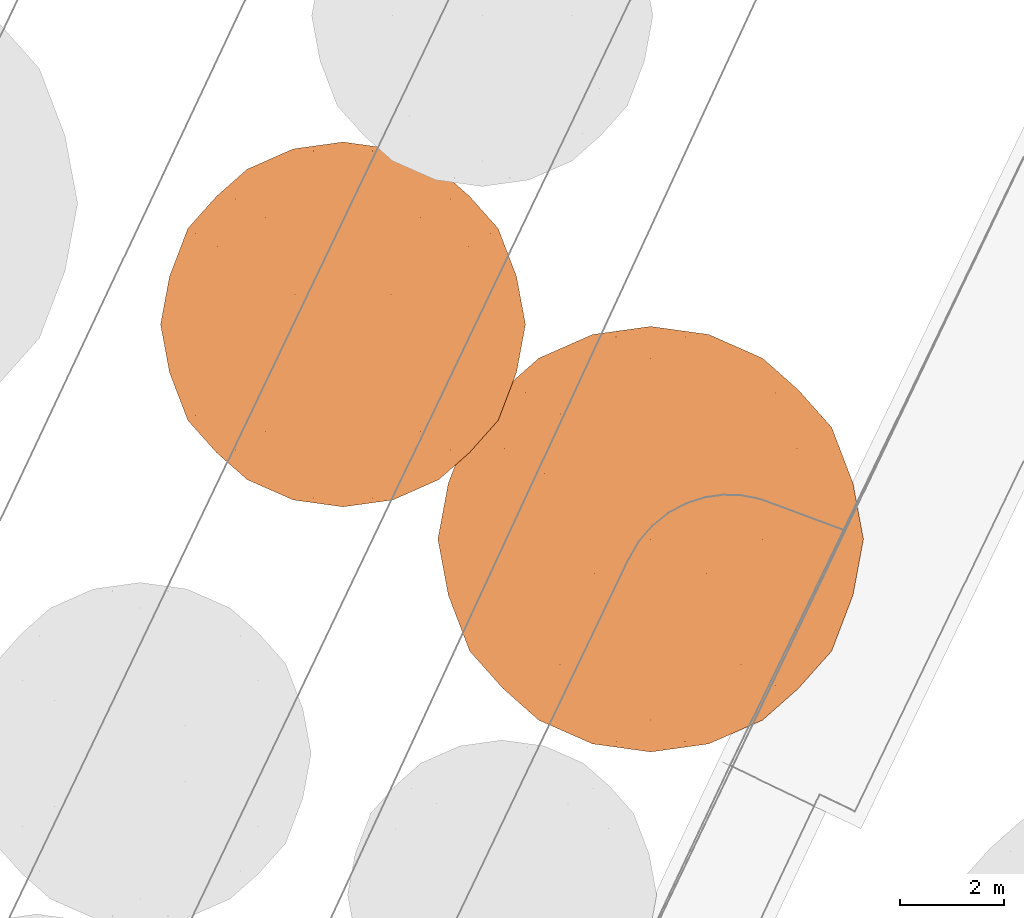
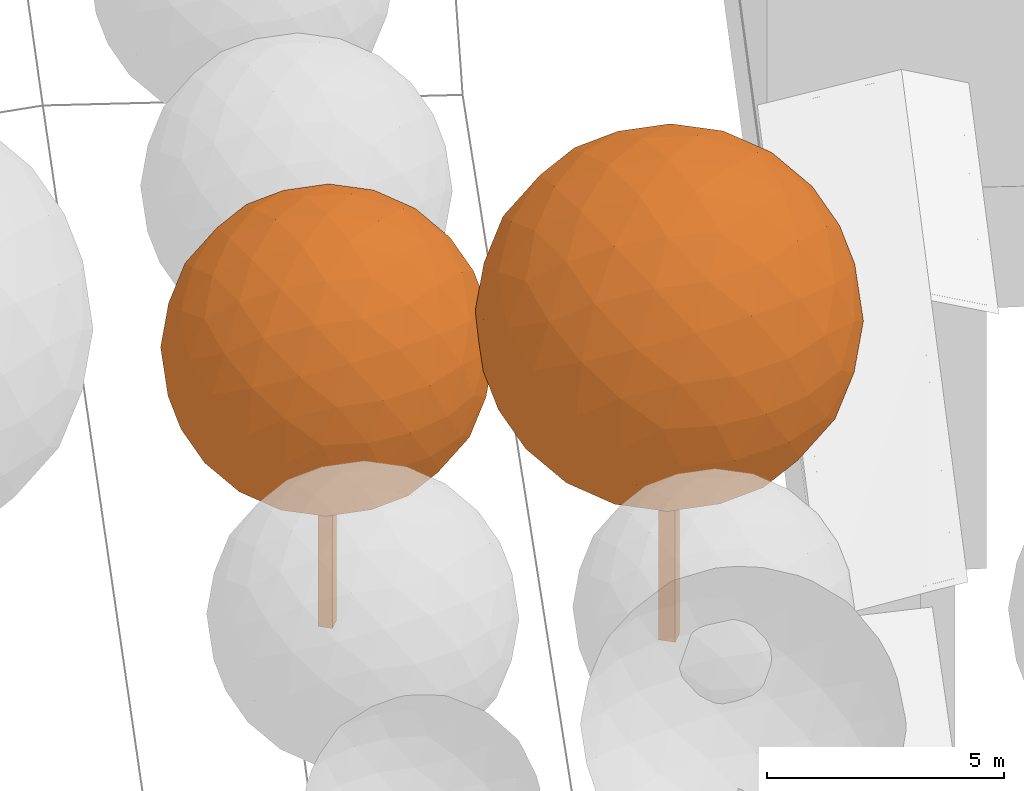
# Not in any storey, part 328 of 494: 2 proxies.
"""IFC2X3 model written with IfcOpenShell, lengths in metres."""

import ifcopenshell
import ifcopenshell.guid

model = None  # the IFC model being written
_history = None  # IfcOwnerHistory: only IFC2X3 demands one
_inside = {}  # id of a spatial element -> (the spatial element, [elements in it])
_under = {}  # id of a project, library or spatial element -> (it, [spatial elements below it])
_declared = {}  # id of a project -> (the project, [libraries it declares])
_typed = {}  # id of a type object -> (the type object, [elements of that type])
_made_of = {}  # id of a material, layer set ... -> (it, [elements and type objects made of it])


def new_model(schema):
    """Start an empty IFC model of exactly this schema.

    Asked for "IFC4X3", IfcOpenShell would pick the latest addendum, in which some entities
    have other attributes; the version numbers below select the first issue.
    IFC2X3 requires an IfcOwnerHistory on every rooted entity: one is made here for all.
    """
    global model, _history
    if schema == "IFC4X3":
        model = ifcopenshell.file(schema_version=(4, 3, 0, 0))
    else:
        model = ifcopenshell.file(schema=schema)
    _inside.clear()
    _under.clear()
    _declared.clear()
    _typed.clear()
    _made_of.clear()
    _history = None
    if model.schema == "IFC2X3":
        org = make("IfcOrganization", Name="unknown")
        user = make(
            "IfcPersonAndOrganization",
            ThePerson=make("IfcPerson", FamilyName="unknown"),
            TheOrganization=org,
        )
        app = make(
            "IfcApplication",
            ApplicationDeveloper=org,
            Version="unknown",
            ApplicationFullName="unknown",
            ApplicationIdentifier="unknown",
        )
        _history = make(
            "IfcOwnerHistory",
            OwningUser=user,
            OwningApplication=app,
            ChangeAction="ADDED",
            CreationDate=0,
        )
    return model


def make(cls, **values):
    """One entity of the class cls with the attributes given. An attribute that is None is left unset."""
    return model.create_entity(
        cls, **{name: value for name, value in values.items() if value is not None}
    )


def rooted(cls, **values):
    """An entity with a GlobalId (a new one), such as an element, a storey or a relation."""
    return make(cls, GlobalId=ifcopenshell.guid.new(), OwnerHistory=_history, **values)


def si_unit(unit_type, name, prefix=None):
    """IfcSIUnit, for example si_unit("LENGTHUNIT", "METRE", prefix="MILLI")."""
    return make("IfcSIUnit", UnitType=unit_type, Prefix=prefix, Name=name)


def assignment(units):
    """IfcUnitAssignment: the units of a project."""
    return None if units is None else make("IfcUnitAssignment", Units=units)


def point(xyz):
    """IfcCartesianPoint."""
    return None if xyz is None else make("IfcCartesianPoint", Coordinates=xyz)


def direction(xyz):
    """IfcDirection."""
    return None if xyz is None else make("IfcDirection", DirectionRatios=xyz)


def frame(location, z_axis=None, x_axis=None):
    """IfcAxis2Placement3D, a coordinate frame: its origin and axes. An axis left out is left unset."""
    return make(
        "IfcAxis2Placement3D",
        Location=point(location),
        Axis=direction(z_axis),
        RefDirection=direction(x_axis),
    )


def origin_with_axes():
    """The frame at (0, 0, 0) with the z axis (0, 0, 1) and the x axis (1, 0, 0) written out."""
    return frame((0.0, 0.0, 0.0), z_axis=(0.0, 0.0, 1.0), x_axis=(1.0, 0.0, 0.0))


def place(relative_to, where):
    """IfcLocalPlacement: puts the frame where relative to a parent placement (None: the world)."""
    return make(
        "IfcLocalPlacement", PlacementRelTo=relative_to, RelativePlacement=where
    )


def context(
    kind, dimensions, precision=None, world=None, true_north=None, identifier=None
):
    """IfcGeometricRepresentationContext, for example the 3D "Model" context."""
    return make(
        "IfcGeometricRepresentationContext",
        ContextIdentifier=identifier,
        ContextType=kind,
        CoordinateSpaceDimension=dimensions,
        Precision=precision,
        WorldCoordinateSystem=world,
        TrueNorth=true_north,
    )


def subcontext(parent, identifier, kind, view, scale=None):
    """IfcGeometricRepresentationSubContext, for example "Body" below "Model"."""
    return make(
        "IfcGeometricRepresentationSubContext",
        ContextIdentifier=identifier,
        ContextType=kind,
        ParentContext=parent,
        TargetScale=scale,
        TargetView=view,
    )


def project(units=None, contexts=None):
    """IfcProject with its units and contexts."""
    return rooted(
        "IfcProject",
        Name="project",
        RepresentationContexts=contexts,
        UnitsInContext=assignment(units),
    )


def faces_of(points, faces, orient=None, outer=None):
    """IfcFace entities. A face is a list of loops; a loop is a list of indices into points, from 0.

    orient and outer hold one flag for each loop. By default every Orientation is true, the
    first loop of a face is its IfcFaceOuterBound and the others are IfcFaceBound.
    """
    made = []
    for i, loops in enumerate(faces):
        bounds = []
        for j, loop in enumerate(loops):
            is_outer = j == 0 if outer is None else outer[i][j]
            bounds.append(
                make(
                    "IfcFaceOuterBound" if is_outer else "IfcFaceBound",
                    Bound=make("IfcPolyLoop", Polygon=[points[k] for k in loop]),
                    Orientation=True if orient is None else orient[i][j],
                )
            )
        made.append(make("IfcFace", Bounds=bounds))
    return made


def faceted_brep(points, faces, orient=None, outer=None, voids=None):
    """IfcFacetedBrep: a solid bounded by flat faces; with voids (closed shells), ...WithVoids."""
    shared = [point(p) for p in points]
    hull = make("IfcClosedShell", CfsFaces=faces_of(shared, faces, orient, outer))
    if voids is None:
        return make("IfcFacetedBrep", Outer=hull)
    return make(
        "IfcFacetedBrepWithVoids",
        Outer=hull,
        Voids=[
            make(cls, CfsFaces=faces_of(shared, fs, o, b)) for cls, fs, o, b in voids
        ],
    )


def shape(context_of_items, identifier, shape_type, items):
    """IfcShapeRepresentation: the items that make up one representation, for example the "Body"."""
    return make(
        "IfcShapeRepresentation",
        ContextOfItems=context_of_items,
        RepresentationIdentifier=identifier,
        RepresentationType=shape_type,
        Items=items,
    )


def made_of(thing, what):
    """Note that an element or type object is made of a material, layer set ...; save() writes the relation."""
    if what is not None:
        _made_of.setdefault(what.id(), (what, []))[1].append(thing)
    return thing


def element(
    cls,
    number,
    at=None,
    inside=None,
    cuts=None,
    type_object=None,
    material=None,
    context=None,
    identifier="Body",
    shape_type=None,
    held_by="IfcProductDefinitionShape",
    body=None,
    shapes=None,
    **own,
):
    """One element of the class cls, such as IfcWall. Its Tag is "e" and its number.

    at: its placement. inside: the storey or other place that contains it. cuts: it is an
    opening in that element (IfcRelVoidsElement). A single representation is given by context,
    identifier, shape_type and body (its items); several are given by shapes. held_by: the class
    of the entity that holds the representations. save() writes the other relations.
    """
    e = rooted(cls, Tag="e%d" % number, ObjectPlacement=at, **own)
    if body is not None:
        shapes = [shape(context, identifier, shape_type, body)]
    if shapes is not None:
        e.Representation = make(held_by, Representations=shapes)
    if inside is not None:
        _inside.setdefault(inside.id(), (inside, []))[1].append(e)
    if cuts is not None:
        rooted(
            "IfcRelVoidsElement", RelatingBuildingElement=cuts, RelatedOpeningElement=e
        )
    if type_object is not None:
        _typed.setdefault(type_object.id(), (type_object, []))[1].append(e)
    return made_of(e, material)


def aggregate(whole, parts):
    """IfcRelAggregates: a whole, such as a stair, and the parts it consists of."""
    return rooted("IfcRelAggregates", RelatingObject=whole, RelatedObjects=parts)


def save(model, path):
    """Write the relations noted so far, then the file.

    IfcRelAggregates (storeys below a building ...), IfcRelContainedInSpatialStructure (elements
    in a storey), IfcRelDefinesByType, IfcRelAssociatesMaterial and IfcRelDeclares: one each for
    every whole, place, type object, material and project.
    """
    for whole, parts in _under.values():
        aggregate(whole, parts)
    for where, things in _inside.values():
        rooted(
            "IfcRelContainedInSpatialStructure",
            RelatedElements=things,
            RelatingStructure=where,
        )
    for kind, things in _typed.values():
        rooted("IfcRelDefinesByType", RelatedObjects=things, RelatingType=kind)
    for what, things in _made_of.values():
        rooted("IfcRelAssociatesMaterial", RelatedObjects=things, RelatingMaterial=what)
    for by, libraries in _declared.values():
        rooted("IfcRelDeclares", RelatingContext=by, RelatedDefinitions=libraries)
    model.write(path)


model = new_model("IFC2X3")

# Units and contexts
model_context = context("Model", 3, precision=1e-05, world=origin_with_axes())
body_context = subcontext(model_context, "Body", "Model", "MODEL_VIEW")
ifc_project = project(units=[si_unit("AREAUNIT", "SQUARE_METRE"), si_unit("LENGTHUNIT", "METRE")], contexts=[model_context])

# Proxies
proxy_1_placement = place(None, frame((531.5947320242, 69.4577410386, 502.4869704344), z_axis=(0.0, 0.0, 1.0), x_axis=(1.0, 0.0, 0.0)))
element("IfcBuildingElementProxy", 1, at=proxy_1_placement, Name="Tree TR2 CD70", ObjectType="NOTDEFINED", context=body_context, shape_type="Brep", body=[
    faceted_brep([(0.0, 0.2243298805, 0.0), (0.2243298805, 0.0, 0.0), (0.0, -0.2243298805, 0.0), (-0.2243298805, 0.0, 0.0), (0.0, -0.2243298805, 7.0475310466), (0.2243298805, 0.0, 7.0475310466), (0.0, 0.2243298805, 7.0475310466), (-0.2243298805, 0.0, 7.0475310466)], [[[0, 1, 2]], [[2, 3, 0]], [[4, 5, 6]], [[6, 7, 4]], [[4, 7, 2]], [[2, 7, 3]], [[7, 6, 3]], [[3, 6, 0]], [[5, 4, 1]], [[1, 4, 2]], [[6, 5, 0]], [[0, 5, 1]]]),
    faceted_brep([(-1.8525531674, 2.9974939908, 7.0475310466), (-2.4447197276, 2.4738470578, 7.613525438), (-1.5289215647, 3.0398414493, 7.9633292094), (-2.8507861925, 1.7618827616, 8.1364344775), (-2.0712174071, 2.4250235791, 8.546278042), (-1.0889034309, 2.8507861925, 8.8094138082), (-3.0398414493, 0.9157981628, 8.5764526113), (-2.4250235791, 1.4987469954, 9.1187484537), (-2.9974939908, 0.0, 8.900084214), (-2.4738470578, 0.5659943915, 9.4922507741), (-1.7618827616, 1.0889034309, 9.8983172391), (-1.4987469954, 2.0712174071, 9.4725546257), (-0.5659943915, 2.4447197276, 9.5213781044), (-0.9157981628, 1.5289215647, 10.0873724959), (0.0, 1.8525531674, 10.0450250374), (-0.9629271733, 3.3896452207, 7.0475310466), (-0.5724704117, 3.3513001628, 7.9738076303), (0.0, 3.5237655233, 7.0475310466), (0.0, 2.9974939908, 8.900084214), (0.5659943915, 2.4447197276, 9.5213781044), (1.0889034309, 2.8507861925, 8.8094138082), (0.5724704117, 3.3513001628, 7.9738076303), (0.9629271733, 3.3896452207, 7.0475310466), (1.5289215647, 3.0398414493, 7.9633292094), (1.8525531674, 2.9974939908, 7.0475310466), (-1.5289215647, 3.0398414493, 6.1317328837), (-0.5724704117, 3.3513001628, 6.1212544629), (-1.0889034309, 2.8507861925, 5.2856482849), (0.5724704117, 3.3513001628, 6.1212544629), (1.5289215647, 3.0398414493, 6.1317328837), (1.0889034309, 2.8507861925, 5.2856482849), (0.0, 2.9974939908, 5.1949778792), (-0.5659943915, 2.4447197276, 4.5736839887), (0.5659943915, 2.4447197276, 4.5736839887), (0.0, 1.8525531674, 4.0500370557), (-2.4447197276, 2.4738470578, 6.4815366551), (-2.0712174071, 2.4250235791, 5.5487840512), (-2.8507861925, 1.7618827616, 5.9586276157), (-1.4987469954, 2.0712174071, 4.6225074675), (-0.9157981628, 1.5289215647, 4.0076895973), (-1.7618827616, 1.0889034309, 4.196744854), (-2.4250235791, 1.4987469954, 4.9763136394), (-3.0398414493, 0.9157981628, 5.5186094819), (-2.4738470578, 0.5659943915, 4.602811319), (-2.9974939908, 0.0, 5.1949778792), (-2.9974939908, 1.8525531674, 7.0475310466), (-3.3513001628, 0.9262765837, 6.4750606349), (-3.3896452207, 0.0, 6.0846038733), (-3.5237655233, 0.0, 7.0475310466), (-3.3513001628, 0.9262765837, 7.6200014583), (-3.3896452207, 0.0, 8.0104582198), (2.4447197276, 2.4738470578, 7.613525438), (2.0712174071, 2.4250235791, 8.546278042), (2.8507861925, 1.7618827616, 8.1364344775), (1.4987469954, 2.0712174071, 9.4725546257), (0.9157981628, 1.5289215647, 10.0873724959), (1.7618827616, 1.0889034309, 9.8983172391), (2.4250235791, 1.4987469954, 9.1187484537), (3.0398414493, 0.9157981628, 8.5764526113), (2.4738470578, 0.5659943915, 9.4922507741), (2.9974939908, 0.0, 8.900084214), (0.0, 0.9629271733, 10.4371762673), (-0.9262765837, 0.5724704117, 10.3988312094), (0.0, 0.0, 10.5712965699), (-1.8525531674, 0.0, 10.0450250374), (-2.4738470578, -0.5659943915, 9.4922507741), (-1.7618827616, -1.0889034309, 9.8983172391), (-0.9262765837, -0.5724704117, 10.3988312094), (0.0, -0.9629271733, 10.4371762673), (-0.9157981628, -1.5289215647, 10.0873724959), (0.0, -1.8525531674, 10.0450250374), (-3.0398414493, -0.9157981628, 8.5764526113), (-3.3513001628, -0.9262765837, 7.6200014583), (-2.8507861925, -1.7618827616, 8.1364344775), (-3.3513001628, -0.9262765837, 6.4750606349), (-3.0398414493, -0.9157981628, 5.5186094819), (-2.8507861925, -1.7618827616, 5.9586276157), (-2.9974939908, -1.8525531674, 7.0475310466), (-2.4447197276, -2.4738470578, 7.613525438), (-2.4447197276, -2.4738470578, 6.4815366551), (-1.8525531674, -2.9974939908, 7.0475310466), (-2.4738470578, -0.5659943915, 4.602811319), (-1.8525531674, 0.0, 4.0500370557), (-1.7618827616, -1.0889034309, 4.196744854), (-0.9262765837, 0.5724704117, 3.6962308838), (0.0, 0.9629271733, 3.6578858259), (0.0, 0.0, 3.5237655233), (-0.9262765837, -0.5724704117, 3.6962308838), (-0.9157981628, -1.5289215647, 4.0076895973), (0.0, -0.9629271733, 3.6578858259), (0.0, -1.8525531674, 4.0500370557), (0.9157981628, 1.5289215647, 4.0076895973), (1.4987469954, 2.0712174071, 4.6225074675), (1.7618827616, 1.0889034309, 4.196744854), (2.0712174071, 2.4250235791, 5.5487840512), (2.4447197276, 2.4738470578, 6.4815366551), (2.8507861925, 1.7618827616, 5.9586276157), (2.4250235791, 1.4987469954, 4.9763136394), (2.4738470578, 0.5659943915, 4.602811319), (3.0398414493, 0.9157981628, 5.5186094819), (2.9974939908, 0.0, 5.1949778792), (1.8525531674, -2.9974939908, 7.0475310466), (2.4447197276, -2.4738470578, 7.613525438), (1.5289215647, -3.0398414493, 7.9633292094), (2.8507861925, -1.7618827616, 8.1364344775), (2.0712174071, -2.4250235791, 8.546278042), (1.0889034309, -2.8507861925, 8.8094138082), (3.0398414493, -0.9157981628, 8.5764526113), (2.4250235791, -1.4987469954, 9.1187484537), (2.4738470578, -0.5659943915, 9.4922507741), (1.7618827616, -1.0889034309, 9.8983172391), (1.4987469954, -2.0712174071, 9.4725546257), (0.5659943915, -2.4447197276, 9.5213781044), (0.9157981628, -1.5289215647, 10.0873724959), (0.9629271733, -3.3896452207, 7.0475310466), (0.5724704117, -3.3513001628, 7.9738076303), (0.0, -3.5237655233, 7.0475310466), (0.0, -2.9974939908, 8.900084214), (-0.5659943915, -2.4447197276, 9.5213781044), (-1.0889034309, -2.8507861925, 8.8094138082), (-0.5724704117, -3.3513001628, 7.9738076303), (-0.9629271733, -3.3896452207, 7.0475310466), (-1.5289215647, -3.0398414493, 7.9633292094), (1.5289215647, -3.0398414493, 6.1317328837), (0.5724704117, -3.3513001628, 6.1212544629), (1.0889034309, -2.8507861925, 5.2856482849), (-0.5724704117, -3.3513001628, 6.1212544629), (-1.5289215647, -3.0398414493, 6.1317328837), (-1.0889034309, -2.8507861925, 5.2856482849), (0.0, -2.9974939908, 5.1949778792), (0.5659943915, -2.4447197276, 4.5736839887), (-0.5659943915, -2.4447197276, 4.5736839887), (2.4447197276, -2.4738470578, 6.4815366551), (2.0712174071, -2.4250235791, 5.5487840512), (2.8507861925, -1.7618827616, 5.9586276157), (1.4987469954, -2.0712174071, 4.6225074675), (0.9157981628, -1.5289215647, 4.0076895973), (1.7618827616, -1.0889034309, 4.196744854), (2.4250235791, -1.4987469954, 4.9763136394), (3.0398414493, -0.9157981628, 5.5186094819), (2.4738470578, -0.5659943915, 4.602811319), (2.9974939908, -1.8525531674, 7.0475310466), (3.3513001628, -0.9262765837, 6.4750606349), (3.3896452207, 0.0, 6.0846038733), (3.5237655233, 0.0, 7.0475310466), (3.3513001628, -0.9262765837, 7.6200014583), (3.3896452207, 0.0, 8.0104582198), (0.9262765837, -0.5724704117, 10.3988312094), (1.8525531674, 0.0, 10.0450250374), (0.9262765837, 0.5724704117, 10.3988312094), (-2.0712174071, -2.4250235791, 8.546278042), (-1.4987469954, -2.0712174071, 9.4725546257), (-2.4250235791, -1.4987469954, 9.1187484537), (-1.4987469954, -2.0712174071, 4.6225074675), (-2.0712174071, -2.4250235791, 5.5487840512), (-2.4250235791, -1.4987469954, 4.9763136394), (1.8525531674, 0.0, 4.0500370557), (0.9262765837, -0.5724704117, 3.6962308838), (0.9262765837, 0.5724704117, 3.6962308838), (3.3513001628, 0.9262765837, 7.6200014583), (3.3513001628, 0.9262765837, 6.4750606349), (2.9974939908, 1.8525531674, 7.0475310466)], [[[0, 1, 2]], [[1, 3, 4]], [[2, 4, 5]], [[1, 4, 2]], [[3, 6, 7]], [[6, 8, 9]], [[7, 9, 10]], [[6, 9, 7]], [[5, 11, 12]], [[11, 10, 13]], [[12, 13, 14]], [[11, 13, 12]], [[3, 7, 4]], [[7, 10, 11]], [[4, 11, 5]], [[7, 11, 4]], [[0, 2, 15]], [[2, 5, 16]], [[15, 16, 17]], [[2, 16, 15]], [[5, 12, 18]], [[12, 14, 19]], [[18, 19, 20]], [[12, 19, 18]], [[17, 21, 22]], [[21, 20, 23]], [[22, 23, 24]], [[21, 23, 22]], [[5, 18, 16]], [[18, 20, 21]], [[16, 21, 17]], [[18, 21, 16]], [[0, 15, 25]], [[15, 17, 26]], [[25, 26, 27]], [[15, 26, 25]], [[17, 22, 28]], [[22, 24, 29]], [[28, 29, 30]], [[22, 29, 28]], [[27, 31, 32]], [[31, 30, 33]], [[32, 33, 34]], [[31, 33, 32]], [[17, 28, 26]], [[28, 30, 31]], [[26, 31, 27]], [[28, 31, 26]], [[0, 25, 35]], [[25, 27, 36]], [[35, 36, 37]], [[25, 36, 35]], [[27, 32, 38]], [[32, 34, 39]], [[38, 39, 40]], [[32, 39, 38]], [[37, 41, 42]], [[41, 40, 43]], [[42, 43, 44]], [[41, 43, 42]], [[27, 38, 36]], [[38, 40, 41]], [[36, 41, 37]], [[38, 41, 36]], [[0, 35, 1]], [[35, 37, 45]], [[1, 45, 3]], [[35, 45, 1]], [[37, 42, 46]], [[42, 44, 47]], [[46, 47, 48]], [[42, 47, 46]], [[3, 49, 6]], [[49, 48, 50]], [[6, 50, 8]], [[49, 50, 6]], [[37, 46, 45]], [[46, 48, 49]], [[45, 49, 3]], [[46, 49, 45]], [[24, 23, 51]], [[23, 20, 52]], [[51, 52, 53]], [[23, 52, 51]], [[20, 19, 54]], [[19, 14, 55]], [[54, 55, 56]], [[19, 55, 54]], [[53, 57, 58]], [[57, 56, 59]], [[58, 59, 60]], [[57, 59, 58]], [[20, 54, 52]], [[54, 56, 57]], [[52, 57, 53]], [[54, 57, 52]], [[14, 13, 61]], [[13, 10, 62]], [[61, 62, 63]], [[13, 62, 61]], [[10, 9, 64]], [[9, 8, 65]], [[64, 65, 66]], [[9, 65, 64]], [[63, 67, 68]], [[67, 66, 69]], [[68, 69, 70]], [[67, 69, 68]], [[10, 64, 62]], [[64, 66, 67]], [[62, 67, 63]], [[64, 67, 62]], [[8, 50, 71]], [[50, 48, 72]], [[71, 72, 73]], [[50, 72, 71]], [[48, 47, 74]], [[47, 44, 75]], [[74, 75, 76]], [[47, 75, 74]], [[73, 77, 78]], [[77, 76, 79]], [[78, 79, 80]], [[77, 79, 78]], [[48, 74, 72]], [[74, 76, 77]], [[72, 77, 73]], [[74, 77, 72]], [[44, 43, 81]], [[43, 40, 82]], [[81, 82, 83]], [[43, 82, 81]], [[40, 39, 84]], [[39, 34, 85]], [[84, 85, 86]], [[39, 85, 84]], [[83, 87, 88]], [[87, 86, 89]], [[88, 89, 90]], [[87, 89, 88]], [[40, 84, 82]], [[84, 86, 87]], [[82, 87, 83]], [[84, 87, 82]], [[34, 33, 91]], [[33, 30, 92]], [[91, 92, 93]], [[33, 92, 91]], [[30, 29, 94]], [[29, 24, 95]], [[94, 95, 96]], [[29, 95, 94]], [[93, 97, 98]], [[97, 96, 99]], [[98, 99, 100]], [[97, 99, 98]], [[30, 94, 92]], [[94, 96, 97]], [[92, 97, 93]], [[94, 97, 92]], [[101, 102, 103]], [[102, 104, 105]], [[103, 105, 106]], [[102, 105, 103]], [[104, 107, 108]], [[107, 60, 109]], [[108, 109, 110]], [[107, 109, 108]], [[106, 111, 112]], [[111, 110, 113]], [[112, 113, 70]], [[111, 113, 112]], [[104, 108, 105]], [[108, 110, 111]], [[105, 111, 106]], [[108, 111, 105]], [[101, 103, 114]], [[103, 106, 115]], [[114, 115, 116]], [[103, 115, 114]], [[106, 112, 117]], [[112, 70, 118]], [[117, 118, 119]], [[112, 118, 117]], [[116, 120, 121]], [[120, 119, 122]], [[121, 122, 80]], [[120, 122, 121]], [[106, 117, 115]], [[117, 119, 120]], [[115, 120, 116]], [[117, 120, 115]], [[101, 114, 123]], [[114, 116, 124]], [[123, 124, 125]], [[114, 124, 123]], [[116, 121, 126]], [[121, 80, 127]], [[126, 127, 128]], [[121, 127, 126]], [[125, 129, 130]], [[129, 128, 131]], [[130, 131, 90]], [[129, 131, 130]], [[116, 126, 124]], [[126, 128, 129]], [[124, 129, 125]], [[126, 129, 124]], [[101, 123, 132]], [[123, 125, 133]], [[132, 133, 134]], [[123, 133, 132]], [[125, 130, 135]], [[130, 90, 136]], [[135, 136, 137]], [[130, 136, 135]], [[134, 138, 139]], [[138, 137, 140]], [[139, 140, 100]], [[138, 140, 139]], [[125, 135, 133]], [[135, 137, 138]], [[133, 138, 134]], [[135, 138, 133]], [[101, 132, 102]], [[132, 134, 141]], [[102, 141, 104]], [[132, 141, 102]], [[134, 139, 142]], [[139, 100, 143]], [[142, 143, 144]], [[139, 143, 142]], [[104, 145, 107]], [[145, 144, 146]], [[107, 146, 60]], [[145, 146, 107]], [[134, 142, 141]], [[142, 144, 145]], [[141, 145, 104]], [[142, 145, 141]], [[70, 113, 68]], [[113, 110, 147]], [[68, 147, 63]], [[113, 147, 68]], [[110, 109, 148]], [[109, 60, 59]], [[148, 59, 56]], [[109, 59, 148]], [[63, 149, 61]], [[149, 56, 55]], [[61, 55, 14]], [[149, 55, 61]], [[110, 148, 147]], [[148, 56, 149]], [[147, 149, 63]], [[148, 149, 147]], [[80, 122, 78]], [[122, 119, 150]], [[78, 150, 73]], [[122, 150, 78]], [[119, 118, 151]], [[118, 70, 69]], [[151, 69, 66]], [[118, 69, 151]], [[73, 152, 71]], [[152, 66, 65]], [[71, 65, 8]], [[152, 65, 71]], [[119, 151, 150]], [[151, 66, 152]], [[150, 152, 73]], [[151, 152, 150]], [[90, 131, 88]], [[131, 128, 153]], [[88, 153, 83]], [[131, 153, 88]], [[128, 127, 154]], [[127, 80, 79]], [[154, 79, 76]], [[127, 79, 154]], [[83, 155, 81]], [[155, 76, 75]], [[81, 75, 44]], [[155, 75, 81]], [[128, 154, 153]], [[154, 76, 155]], [[153, 155, 83]], [[154, 155, 153]], [[100, 140, 98]], [[140, 137, 156]], [[98, 156, 93]], [[140, 156, 98]], [[137, 136, 157]], [[136, 90, 89]], [[157, 89, 86]], [[136, 89, 157]], [[93, 158, 91]], [[158, 86, 85]], [[91, 85, 34]], [[158, 85, 91]], [[137, 157, 156]], [[157, 86, 158]], [[156, 158, 93]], [[157, 158, 156]], [[60, 146, 58]], [[146, 144, 159]], [[58, 159, 53]], [[146, 159, 58]], [[144, 143, 160]], [[143, 100, 99]], [[160, 99, 96]], [[143, 99, 160]], [[53, 161, 51]], [[161, 96, 95]], [[51, 95, 24]], [[161, 95, 51]], [[144, 160, 159]], [[160, 96, 161]], [[159, 161, 53]], [[160, 161, 159]]]),
])
proxy_2_placement = place(None, frame((537.5367320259, 65.3097411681, 502.5888301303), z_axis=(0.0, 0.0, 1.0), x_axis=(1.0, 0.0, 0.0)))
element("IfcBuildingElementProxy", 2, at=proxy_2_placement, Name="Tree TR2 CD82", ObjectType="NOTDEFINED", context=body_context, shape_type="Brep", body=[
    faceted_brep([(0.0, 0.2616264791, 0.0), (0.2616264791, 0.0, 0.0), (0.0, -0.2616264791, 0.0), (-0.2616264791, 0.0, 0.0), (0.0, -0.2616264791, 8.2192382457), (0.2616264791, 0.0, 8.2192382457), (0.0, 0.2616264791, 8.2192382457), (-0.2616264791, 0.0, 8.2192382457)], [[[0, 1, 2]], [[2, 3, 0]], [[4, 5, 6]], [[6, 7, 4]], [[4, 7, 2]], [[2, 7, 3]], [[7, 6, 3]], [[3, 6, 0]], [[5, 4, 1]], [[1, 4, 2]], [[6, 5, 0]], [[0, 5, 1]]]),
    faceted_brep([(-2.1605546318, 3.4958508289, 8.2192382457), (-2.8511735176, 2.8851434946, 8.8793336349), (-1.7831167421, 3.5452388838, 9.2872950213), (-3.3247517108, 2.0548095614, 9.4891803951), (-2.4155735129, 2.8282027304, 9.9671636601), (-1.2699421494, 3.3247517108, 10.2740478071), (-3.5452388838, 1.0680567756, 10.0023549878), (-2.8282027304, 1.7479254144, 10.6348117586), (-3.4958508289, 0.0, 10.3797928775), (-2.8851434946, 0.6600953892, 11.0704117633), (-2.0548095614, 1.2699421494, 11.5439899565), (-1.7479254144, 2.4155735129, 11.047440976), (-0.6600953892, 2.8511735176, 11.1043817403), (-1.0680567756, 1.7831167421, 11.7644771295), (0.0, 2.1605546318, 11.7150890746), (-1.1230213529, 3.9532002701, 8.2192382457), (-0.6676480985, 3.9084800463, 9.2995155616), (0.0, 4.1096191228, 8.2192382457), (0.0, 3.4958508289, 10.3797928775), (0.6600953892, 2.8511735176, 11.1043817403), (1.2699421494, 3.3247517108, 10.2740478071), (0.6676480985, 3.9084800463, 9.2995155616), (1.1230213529, 3.9532002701, 8.2192382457), (1.7831167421, 3.5452388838, 9.2872950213), (2.1605546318, 3.4958508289, 8.2192382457), (-1.7831167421, 3.5452388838, 7.1511814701), (-0.6676480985, 3.9084800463, 7.1389609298), (-1.2699421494, 3.3247517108, 6.1644286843), (0.6676480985, 3.9084800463, 7.1389609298), (1.7831167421, 3.5452388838, 7.1511814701), (1.2699421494, 3.3247517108, 6.1644286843), (0.0, 3.4958508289, 6.0586836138), (-0.6600953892, 2.8511735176, 5.3340947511), (0.6600953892, 2.8511735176, 5.3340947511), (0.0, 2.1605546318, 4.7233874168), (-2.8511735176, 2.8851434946, 7.5591428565), (-2.4155735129, 2.8282027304, 6.4713128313), (-3.3247517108, 2.0548095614, 6.9492960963), (-1.7479254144, 2.4155735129, 5.3910355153), (-1.0680567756, 1.7831167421, 4.6739993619), (-2.0548095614, 1.2699421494, 4.8944865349), (-2.8282027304, 1.7479254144, 5.8036647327), (-3.5452388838, 1.0680567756, 6.4361215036), (-2.8851434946, 0.6600953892, 5.3680647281), (-3.4958508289, 0.0, 6.0586836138), (-3.4958508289, 2.1605546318, 8.2192382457), (-3.9084800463, 1.0802773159, 7.5515901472), (-3.9532002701, 0.0, 7.0962168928), (-4.1096191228, 0.0, 8.2192382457), (-3.9084800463, 1.0802773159, 8.8868863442), (-3.9532002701, 0.0, 9.3422595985), (2.8511735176, 2.8851434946, 8.8793336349), (2.4155735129, 2.8282027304, 9.9671636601), (3.3247517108, 2.0548095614, 9.4891803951), (1.7479254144, 2.4155735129, 11.047440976), (1.0680567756, 1.7831167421, 11.7644771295), (2.0548095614, 1.2699421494, 11.5439899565), (2.8282027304, 1.7479254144, 10.6348117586), (3.5452388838, 1.0680567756, 10.0023549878), (2.8851434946, 0.6600953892, 11.0704117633), (3.4958508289, 0.0, 10.3797928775), (0.0, 1.1230213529, 12.1724385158), (-1.0802773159, 0.6676480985, 12.127718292), (0.0, 0.0, 12.3288573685), (-2.1605546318, 0.0, 11.7150890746), (-2.8851434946, -0.6600953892, 11.0704117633), (-2.0548095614, -1.2699421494, 11.5439899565), (-1.0802773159, -0.6676480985, 12.127718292), (0.0, -1.1230213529, 12.1724385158), (-1.0680567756, -1.7831167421, 11.7644771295), (0.0, -2.1605546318, 11.7150890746), (-3.5452388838, -1.0680567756, 10.0023549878), (-3.9084800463, -1.0802773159, 8.8868863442), (-3.3247517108, -2.0548095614, 9.4891803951), (-3.9084800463, -1.0802773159, 7.5515901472), (-3.5452388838, -1.0680567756, 6.4361215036), (-3.3247517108, -2.0548095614, 6.9492960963), (-3.4958508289, -2.1605546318, 8.2192382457), (-2.8511735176, -2.8851434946, 8.8793336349), (-2.8511735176, -2.8851434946, 7.5591428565), (-2.1605546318, -3.4958508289, 8.2192382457), (-2.8851434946, -0.6600953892, 5.3680647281), (-2.1605546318, 0.0, 4.7233874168), (-2.0548095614, -1.2699421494, 4.8944865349), (-1.0802773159, 0.6676480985, 4.3107581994), (0.0, 1.1230213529, 4.2660379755), (0.0, 0.0, 4.1096191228), (-1.0802773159, -0.6676480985, 4.3107581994), (-1.0680567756, -1.7831167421, 4.6739993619), (0.0, -1.1230213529, 4.2660379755), (0.0, -2.1605546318, 4.7233874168), (1.0680567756, 1.7831167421, 4.6739993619), (1.7479254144, 2.4155735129, 5.3910355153), (2.0548095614, 1.2699421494, 4.8944865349), (2.4155735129, 2.8282027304, 6.4713128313), (2.8511735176, 2.8851434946, 7.5591428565), (3.3247517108, 2.0548095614, 6.9492960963), (2.8282027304, 1.7479254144, 5.8036647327), (2.8851434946, 0.6600953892, 5.3680647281), (3.5452388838, 1.0680567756, 6.4361215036), (3.4958508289, 0.0, 6.0586836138), (2.1605546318, -3.4958508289, 8.2192382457), (2.8511735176, -2.8851434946, 8.8793336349), (1.7831167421, -3.5452388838, 9.2872950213), (3.3247517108, -2.0548095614, 9.4891803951), (2.4155735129, -2.8282027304, 9.9671636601), (1.2699421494, -3.3247517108, 10.2740478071), (3.5452388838, -1.0680567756, 10.0023549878), (2.8282027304, -1.7479254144, 10.6348117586), (2.8851434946, -0.6600953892, 11.0704117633), (2.0548095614, -1.2699421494, 11.5439899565), (1.7479254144, -2.4155735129, 11.047440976), (0.6600953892, -2.8511735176, 11.1043817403), (1.0680567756, -1.7831167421, 11.7644771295), (1.1230213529, -3.9532002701, 8.2192382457), (0.6676480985, -3.9084800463, 9.2995155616), (0.0, -4.1096191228, 8.2192382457), (0.0, -3.4958508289, 10.3797928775), (-0.6600953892, -2.8511735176, 11.1043817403), (-1.2699421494, -3.3247517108, 10.2740478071), (-0.6676480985, -3.9084800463, 9.2995155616), (-1.1230213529, -3.9532002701, 8.2192382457), (-1.7831167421, -3.5452388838, 9.2872950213), (1.7831167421, -3.5452388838, 7.1511814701), (0.6676480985, -3.9084800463, 7.1389609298), (1.2699421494, -3.3247517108, 6.1644286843), (-0.6676480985, -3.9084800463, 7.1389609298), (-1.7831167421, -3.5452388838, 7.1511814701), (-1.2699421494, -3.3247517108, 6.1644286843), (0.0, -3.4958508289, 6.0586836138), (0.6600953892, -2.8511735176, 5.3340947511), (-0.6600953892, -2.8511735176, 5.3340947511), (2.8511735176, -2.8851434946, 7.5591428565), (2.4155735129, -2.8282027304, 6.4713128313), (3.3247517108, -2.0548095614, 6.9492960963), (1.7479254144, -2.4155735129, 5.3910355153), (1.0680567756, -1.7831167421, 4.6739993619), (2.0548095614, -1.2699421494, 4.8944865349), (2.8282027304, -1.7479254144, 5.8036647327), (3.5452388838, -1.0680567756, 6.4361215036), (2.8851434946, -0.6600953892, 5.3680647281), (3.4958508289, -2.1605546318, 8.2192382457), (3.9084800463, -1.0802773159, 7.5515901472), (3.9532002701, 0.0, 7.0962168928), (4.1096191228, 0.0, 8.2192382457), (3.9084800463, -1.0802773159, 8.8868863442), (3.9532002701, 0.0, 9.3422595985), (1.0802773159, -0.6676480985, 12.127718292), (2.1605546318, 0.0, 11.7150890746), (1.0802773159, 0.6676480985, 12.127718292), (-2.4155735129, -2.8282027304, 9.9671636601), (-1.7479254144, -2.4155735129, 11.047440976), (-2.8282027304, -1.7479254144, 10.6348117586), (-1.7479254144, -2.4155735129, 5.3910355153), (-2.4155735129, -2.8282027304, 6.4713128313), (-2.8282027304, -1.7479254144, 5.8036647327), (2.1605546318, 0.0, 4.7233874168), (1.0802773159, -0.6676480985, 4.3107581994), (1.0802773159, 0.6676480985, 4.3107581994), (3.9084800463, 1.0802773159, 8.8868863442), (3.9084800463, 1.0802773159, 7.5515901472), (3.4958508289, 2.1605546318, 8.2192382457)], [[[0, 1, 2]], [[1, 3, 4]], [[2, 4, 5]], [[1, 4, 2]], [[3, 6, 7]], [[6, 8, 9]], [[7, 9, 10]], [[6, 9, 7]], [[5, 11, 12]], [[11, 10, 13]], [[12, 13, 14]], [[11, 13, 12]], [[3, 7, 4]], [[7, 10, 11]], [[4, 11, 5]], [[7, 11, 4]], [[0, 2, 15]], [[2, 5, 16]], [[15, 16, 17]], [[2, 16, 15]], [[5, 12, 18]], [[12, 14, 19]], [[18, 19, 20]], [[12, 19, 18]], [[17, 21, 22]], [[21, 20, 23]], [[22, 23, 24]], [[21, 23, 22]], [[5, 18, 16]], [[18, 20, 21]], [[16, 21, 17]], [[18, 21, 16]], [[0, 15, 25]], [[15, 17, 26]], [[25, 26, 27]], [[15, 26, 25]], [[17, 22, 28]], [[22, 24, 29]], [[28, 29, 30]], [[22, 29, 28]], [[27, 31, 32]], [[31, 30, 33]], [[32, 33, 34]], [[31, 33, 32]], [[17, 28, 26]], [[28, 30, 31]], [[26, 31, 27]], [[28, 31, 26]], [[0, 25, 35]], [[25, 27, 36]], [[35, 36, 37]], [[25, 36, 35]], [[27, 32, 38]], [[32, 34, 39]], [[38, 39, 40]], [[32, 39, 38]], [[37, 41, 42]], [[41, 40, 43]], [[42, 43, 44]], [[41, 43, 42]], [[27, 38, 36]], [[38, 40, 41]], [[36, 41, 37]], [[38, 41, 36]], [[0, 35, 1]], [[35, 37, 45]], [[1, 45, 3]], [[35, 45, 1]], [[37, 42, 46]], [[42, 44, 47]], [[46, 47, 48]], [[42, 47, 46]], [[3, 49, 6]], [[49, 48, 50]], [[6, 50, 8]], [[49, 50, 6]], [[37, 46, 45]], [[46, 48, 49]], [[45, 49, 3]], [[46, 49, 45]], [[24, 23, 51]], [[23, 20, 52]], [[51, 52, 53]], [[23, 52, 51]], [[20, 19, 54]], [[19, 14, 55]], [[54, 55, 56]], [[19, 55, 54]], [[53, 57, 58]], [[57, 56, 59]], [[58, 59, 60]], [[57, 59, 58]], [[20, 54, 52]], [[54, 56, 57]], [[52, 57, 53]], [[54, 57, 52]], [[14, 13, 61]], [[13, 10, 62]], [[61, 62, 63]], [[13, 62, 61]], [[10, 9, 64]], [[9, 8, 65]], [[64, 65, 66]], [[9, 65, 64]], [[63, 67, 68]], [[67, 66, 69]], [[68, 69, 70]], [[67, 69, 68]], [[10, 64, 62]], [[64, 66, 67]], [[62, 67, 63]], [[64, 67, 62]], [[8, 50, 71]], [[50, 48, 72]], [[71, 72, 73]], [[50, 72, 71]], [[48, 47, 74]], [[47, 44, 75]], [[74, 75, 76]], [[47, 75, 74]], [[73, 77, 78]], [[77, 76, 79]], [[78, 79, 80]], [[77, 79, 78]], [[48, 74, 72]], [[74, 76, 77]], [[72, 77, 73]], [[74, 77, 72]], [[44, 43, 81]], [[43, 40, 82]], [[81, 82, 83]], [[43, 82, 81]], [[40, 39, 84]], [[39, 34, 85]], [[84, 85, 86]], [[39, 85, 84]], [[83, 87, 88]], [[87, 86, 89]], [[88, 89, 90]], [[87, 89, 88]], [[40, 84, 82]], [[84, 86, 87]], [[82, 87, 83]], [[84, 87, 82]], [[34, 33, 91]], [[33, 30, 92]], [[91, 92, 93]], [[33, 92, 91]], [[30, 29, 94]], [[29, 24, 95]], [[94, 95, 96]], [[29, 95, 94]], [[93, 97, 98]], [[97, 96, 99]], [[98, 99, 100]], [[97, 99, 98]], [[30, 94, 92]], [[94, 96, 97]], [[92, 97, 93]], [[94, 97, 92]], [[101, 102, 103]], [[102, 104, 105]], [[103, 105, 106]], [[102, 105, 103]], [[104, 107, 108]], [[107, 60, 109]], [[108, 109, 110]], [[107, 109, 108]], [[106, 111, 112]], [[111, 110, 113]], [[112, 113, 70]], [[111, 113, 112]], [[104, 108, 105]], [[108, 110, 111]], [[105, 111, 106]], [[108, 111, 105]], [[101, 103, 114]], [[103, 106, 115]], [[114, 115, 116]], [[103, 115, 114]], [[106, 112, 117]], [[112, 70, 118]], [[117, 118, 119]], [[112, 118, 117]], [[116, 120, 121]], [[120, 119, 122]], [[121, 122, 80]], [[120, 122, 121]], [[106, 117, 115]], [[117, 119, 120]], [[115, 120, 116]], [[117, 120, 115]], [[101, 114, 123]], [[114, 116, 124]], [[123, 124, 125]], [[114, 124, 123]], [[116, 121, 126]], [[121, 80, 127]], [[126, 127, 128]], [[121, 127, 126]], [[125, 129, 130]], [[129, 128, 131]], [[130, 131, 90]], [[129, 131, 130]], [[116, 126, 124]], [[126, 128, 129]], [[124, 129, 125]], [[126, 129, 124]], [[101, 123, 132]], [[123, 125, 133]], [[132, 133, 134]], [[123, 133, 132]], [[125, 130, 135]], [[130, 90, 136]], [[135, 136, 137]], [[130, 136, 135]], [[134, 138, 139]], [[138, 137, 140]], [[139, 140, 100]], [[138, 140, 139]], [[125, 135, 133]], [[135, 137, 138]], [[133, 138, 134]], [[135, 138, 133]], [[101, 132, 102]], [[132, 134, 141]], [[102, 141, 104]], [[132, 141, 102]], [[134, 139, 142]], [[139, 100, 143]], [[142, 143, 144]], [[139, 143, 142]], [[104, 145, 107]], [[145, 144, 146]], [[107, 146, 60]], [[145, 146, 107]], [[134, 142, 141]], [[142, 144, 145]], [[141, 145, 104]], [[142, 145, 141]], [[70, 113, 68]], [[113, 110, 147]], [[68, 147, 63]], [[113, 147, 68]], [[110, 109, 148]], [[109, 60, 59]], [[148, 59, 56]], [[109, 59, 148]], [[63, 149, 61]], [[149, 56, 55]], [[61, 55, 14]], [[149, 55, 61]], [[110, 148, 147]], [[148, 56, 149]], [[147, 149, 63]], [[148, 149, 147]], [[80, 122, 78]], [[122, 119, 150]], [[78, 150, 73]], [[122, 150, 78]], [[119, 118, 151]], [[118, 70, 69]], [[151, 69, 66]], [[118, 69, 151]], [[73, 152, 71]], [[152, 66, 65]], [[71, 65, 8]], [[152, 65, 71]], [[119, 151, 150]], [[151, 66, 152]], [[150, 152, 73]], [[151, 152, 150]], [[90, 131, 88]], [[131, 128, 153]], [[88, 153, 83]], [[131, 153, 88]], [[128, 127, 154]], [[127, 80, 79]], [[154, 79, 76]], [[127, 79, 154]], [[83, 155, 81]], [[155, 76, 75]], [[81, 75, 44]], [[155, 75, 81]], [[128, 154, 153]], [[154, 76, 155]], [[153, 155, 83]], [[154, 155, 153]], [[100, 140, 98]], [[140, 137, 156]], [[98, 156, 93]], [[140, 156, 98]], [[137, 136, 157]], [[136, 90, 89]], [[157, 89, 86]], [[136, 89, 157]], [[93, 158, 91]], [[158, 86, 85]], [[91, 85, 34]], [[158, 85, 91]], [[137, 157, 156]], [[157, 86, 158]], [[156, 158, 93]], [[157, 158, 156]], [[60, 146, 58]], [[146, 144, 159]], [[58, 159, 53]], [[146, 159, 58]], [[144, 143, 160]], [[143, 100, 99]], [[160, 99, 96]], [[143, 99, 160]], [[53, 161, 51]], [[161, 96, 95]], [[51, 95, 24]], [[161, 95, 51]], [[144, 160, 159]], [[160, 96, 161]], [[159, 161, 53]], [[160, 161, 159]]]),
])

save(model, "model.ifc")
